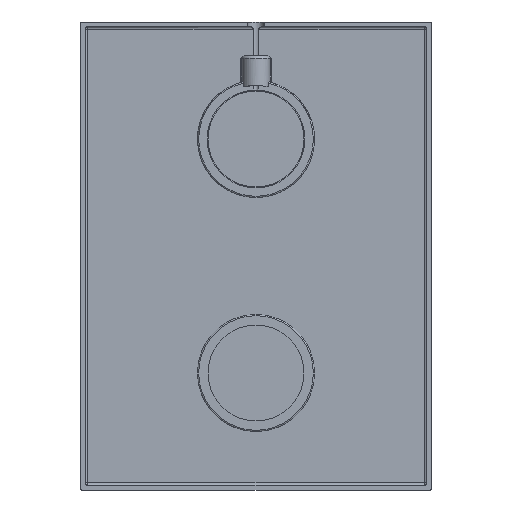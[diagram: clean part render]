
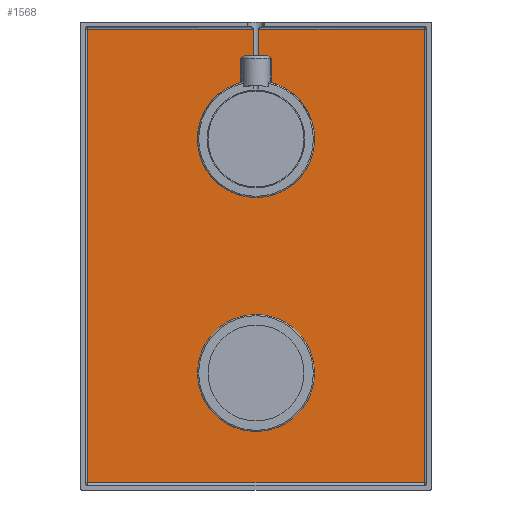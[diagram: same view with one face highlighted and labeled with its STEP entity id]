
A CAD part, front view. The second image highlights one B-rep face of the part: STEP entity #1568.
In plain terms, the highlighted planar face has unit normal (0, -1, 0).
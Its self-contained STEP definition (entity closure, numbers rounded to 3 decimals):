
#146=DIRECTION('',(-1.,0.,0.));
#147=VECTOR('',#146,3.92);
#148=CARTESIAN_POINT('',(-1.166,7.5,35.478));
#149=LINE('',#148,#147);
#150=CARTESIAN_POINT('',(-5.086,7.5,35.478));
#151=CARTESIAN_POINT('',(-5.212,7.5,35.478));
#152=CARTESIAN_POINT('',(-5.463,7.5,35.437));
#153=CARTESIAN_POINT('',(-5.848,7.5,35.24));
#154=CARTESIAN_POINT('',(-6.194,7.5,34.908));
#155=CARTESIAN_POINT('',(-6.394,7.5,34.627));
#156=CARTESIAN_POINT('',(-6.5,7.5,34.478));
#158=DIRECTION('',(0.,0.,-1.));
#159=VECTOR('',#158,10.338);
#160=CARTESIAN_POINT('',(-6.5,7.5,34.478));
#161=LINE('',#160,#159);
#162=DIRECTION('',(0.,0.,1.));
#163=VECTOR('',#162,10.338);
#164=CARTESIAN_POINT('',(6.5,7.5,24.14));
#165=LINE('',#164,#163);
#166=CARTESIAN_POINT('',(6.5,7.5,34.478));
#167=CARTESIAN_POINT('',(6.394,7.5,34.628));
#168=CARTESIAN_POINT('',(6.193,7.5,34.909));
#169=CARTESIAN_POINT('',(5.847,7.5,35.241));
#170=CARTESIAN_POINT('',(5.462,7.5,35.438));
#171=CARTESIAN_POINT('',(5.212,7.5,35.478));
#172=CARTESIAN_POINT('',(5.086,7.5,35.478));
#174=DIRECTION('',(-1.,0.,0.));
#175=VECTOR('',#174,3.92);
#176=CARTESIAN_POINT('',(5.086,7.5,35.478));
#177=LINE('',#176,#175);
#178=DIRECTION('',(0.,0.,1.));
#179=VECTOR('',#178,11.522);
#180=CARTESIAN_POINT('',(1.166,7.5,35.478));
#181=LINE('',#180,#179);
#182=DIRECTION('',(1.,0.,0.));
#183=VECTOR('',#182,70.834);
#184=CARTESIAN_POINT('',(1.166,7.5,47.));
#185=LINE('',#184,#183);
#186=DIRECTION('',(0.,0.,-1.));
#187=VECTOR('',#186,194.);
#188=CARTESIAN_POINT('',(72.,7.5,47.));
#189=LINE('',#188,#187);
#190=DIRECTION('',(-1.,0.,0.));
#191=VECTOR('',#190,144.);
#192=CARTESIAN_POINT('',(72.,7.5,-147.));
#193=LINE('',#192,#191);
#194=DIRECTION('',(0.,0.,1.));
#195=VECTOR('',#194,194.);
#196=CARTESIAN_POINT('',(-72.,7.5,-147.));
#197=LINE('',#196,#195);
#198=DIRECTION('',(1.,0.,0.));
#199=VECTOR('',#198,70.834);
#200=CARTESIAN_POINT('',(-72.,7.5,47.));
#201=LINE('',#200,#199);
#202=DIRECTION('',(0.,0.,1.));
#203=VECTOR('',#202,11.522);
#204=CARTESIAN_POINT('',(-1.166,7.5,35.478));
#205=LINE('',#204,#203);
#322=CARTESIAN_POINT('',(6.5,7.5,24.14));
#330=CARTESIAN_POINT('',(0.,7.5,0.));
#331=DIRECTION('',(0.,1.,0.));
#332=DIRECTION('',(0.26,0.,0.966));
#333=AXIS2_PLACEMENT_3D('',#330,#331,#332);
#341=CARTESIAN_POINT('',(-6.5,7.5,24.14));
#1199=CARTESIAN_POINT('',(1.166,7.5,35.478));
#1201=VERTEX_POINT('',#1199);
#1203=CARTESIAN_POINT('',(-1.166,7.5,35.478));
#1205=VERTEX_POINT('',#1203);
#1227=CARTESIAN_POINT('',(1.166,7.5,47.));
#1228=CARTESIAN_POINT('',(72.,7.5,47.));
#1229=VERTEX_POINT('',#1227);
#1230=VERTEX_POINT('',#1228);
#1231=CARTESIAN_POINT('',(72.,7.5,-147.));
#1232=VERTEX_POINT('',#1231);
#1237=CARTESIAN_POINT('',(-72.,7.5,-147.));
#1238=VERTEX_POINT('',#1237);
#1247=CARTESIAN_POINT('',(-72.,7.5,47.));
#1248=VERTEX_POINT('',#1247);
#1249=CARTESIAN_POINT('',(-1.166,7.5,47.));
#1250=VERTEX_POINT('',#1249);
#1311=CARTESIAN_POINT('',(5.086,7.5,35.478));
#1312=VERTEX_POINT('',#1311);
#1313=CARTESIAN_POINT('',(-5.086,7.5,35.478));
#1314=VERTEX_POINT('',#1313);
#1315=VERTEX_POINT('',#341);
#1316=CARTESIAN_POINT('',(-6.5,7.5,34.478));
#1317=VERTEX_POINT('',#1316);
#1318=VERTEX_POINT('',#322);
#1319=CARTESIAN_POINT('',(6.5,7.5,34.478));
#1320=VERTEX_POINT('',#1319);
#1533=CARTESIAN_POINT('',(0.,7.5,-50.));
#1534=DIRECTION('',(0.,-1.,0.));
#1535=DIRECTION('',(-1.,0.,0.));
#1536=AXIS2_PLACEMENT_3D('',#1533,#1534,#1535);
#1537=PLANE('',#1536);
#1539=ORIENTED_EDGE('',*,*,#1538,.T.);
#1541=ORIENTED_EDGE('',*,*,#1540,.T.);
#1543=ORIENTED_EDGE('',*,*,#1542,.T.);
#1545=ORIENTED_EDGE('',*,*,#1544,.F.);
#1547=ORIENTED_EDGE('',*,*,#1546,.T.);
#1549=ORIENTED_EDGE('',*,*,#1548,.T.);
#1551=ORIENTED_EDGE('',*,*,#1550,.T.);
#1553=ORIENTED_EDGE('',*,*,#1552,.T.);
#1555=ORIENTED_EDGE('',*,*,#1554,.T.);
#1557=ORIENTED_EDGE('',*,*,#1556,.T.);
#1559=ORIENTED_EDGE('',*,*,#1558,.T.);
#1561=ORIENTED_EDGE('',*,*,#1560,.T.);
#1563=ORIENTED_EDGE('',*,*,#1562,.T.);
#1565=ORIENTED_EDGE('',*,*,#1564,.F.);
#1566=EDGE_LOOP('',(#1539,#1541,#1543,#1545,#1547,#1549,#1551,#1553,#1555,#1557,
#1559,#1561,#1563,#1565));
#1567=FACE_OUTER_BOUND('',#1566,.F.);
#1568=ADVANCED_FACE('',(#1567),#1537,.T.);
#157=B_SPLINE_CURVE_WITH_KNOTS('',3,(#150,#151,#152,#153,#154,#155,#156),
.UNSPECIFIED.,.F.,.F.,(4,1,1,1,4),(0.,0.25,0.5,0.75,1.),
.UNSPECIFIED.);
#173=B_SPLINE_CURVE_WITH_KNOTS('',3,(#166,#167,#168,#169,#170,#171,#172),
.UNSPECIFIED.,.F.,.F.,(4,1,1,1,4),(0.,0.25,0.5,0.75,1.),
.UNSPECIFIED.);
#334=CIRCLE('',#333,25.);
#1538=EDGE_CURVE('',#1205,#1314,#149,.T.);
#1540=EDGE_CURVE('',#1314,#1317,#157,.T.);
#1542=EDGE_CURVE('',#1317,#1315,#161,.T.);
#1544=EDGE_CURVE('',#1318,#1315,#334,.T.);
#1546=EDGE_CURVE('',#1318,#1320,#165,.T.);
#1548=EDGE_CURVE('',#1320,#1312,#173,.T.);
#1550=EDGE_CURVE('',#1312,#1201,#177,.T.);
#1552=EDGE_CURVE('',#1201,#1229,#181,.T.);
#1554=EDGE_CURVE('',#1229,#1230,#185,.T.);
#1556=EDGE_CURVE('',#1230,#1232,#189,.T.);
#1558=EDGE_CURVE('',#1232,#1238,#193,.T.);
#1560=EDGE_CURVE('',#1238,#1248,#197,.T.);
#1562=EDGE_CURVE('',#1248,#1250,#201,.T.);
#1564=EDGE_CURVE('',#1205,#1250,#205,.T.);
